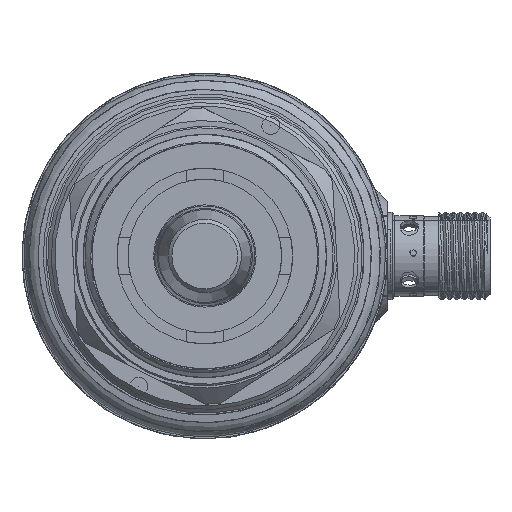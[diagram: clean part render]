
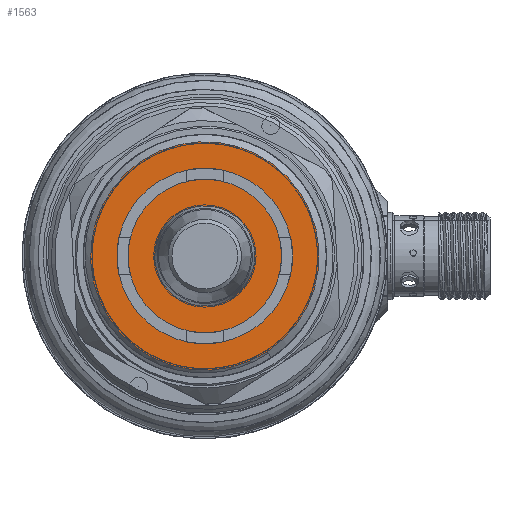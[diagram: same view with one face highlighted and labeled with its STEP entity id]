
A CAD part, front view. The second image highlights one B-rep face of the part: STEP entity #1563.
In plain terms, the highlighted planar face has unit normal (0, -1, 0) as drawn and (-1, 0, 0) by its records, which use the part's own axes.
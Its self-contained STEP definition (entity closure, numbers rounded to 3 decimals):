
#156 = EDGE_LOOP ( 'NONE', ( #3040 ) ) ;
#235 = EDGE_LOOP ( 'NONE', ( #4408 ) ) ;
#1563 = ADVANCED_FACE ( 'NONE', ( #6562, #12909 ), #5511, .F. ) ;
#2364 = AXIS2_PLACEMENT_3D ( 'NONE', #5418, #9752, #5703 ) ;
#2488 = CARTESIAN_POINT ( 'NONE',  ( 2.5, 0., -0.275 ) ) ;
#3040 = ORIENTED_EDGE ( 'NONE', *, *, #3867, .T. ) ;
#3096 = EDGE_CURVE ( 'NONE', #13075, #13075, #7472, .T. ) ;
#3348 = DIRECTION ( 'NONE',  ( 0., 0., -1. ) ) ;
#3867 = EDGE_CURVE ( 'NONE', #4628, #4628, #7953, .T. ) ;
#4408 = ORIENTED_EDGE ( 'NONE', *, *, #3096, .T. ) ;
#4628 = VERTEX_POINT ( 'NONE', #12104 ) ;
#5418 = CARTESIAN_POINT ( 'NONE',  ( 2.5, 0., -0.275 ) ) ;
#5511 = PLANE ( 'NONE',  #10358 ) ;
#5703 = DIRECTION ( 'NONE',  ( 0., 0., -1. ) ) ;
#6562 = FACE_OUTER_BOUND ( 'NONE', #156, .T. ) ;
#7472 = CIRCLE ( 'NONE', #2364, 6.85 ) ;
#7953 = CIRCLE ( 'NONE', #11507, 15.626 ) ;
#8613 = CARTESIAN_POINT ( 'NONE',  ( 2.5, 0., -7.125 ) ) ;
#8766 = DIRECTION ( 'NONE',  ( -1., 0., 0. ) ) ;
#9752 = DIRECTION ( 'NONE',  ( 1., 0., 0. ) ) ;
#9921 = CARTESIAN_POINT ( 'NONE',  ( 2.5, 0., -0.275 ) ) ;
#10358 = AXIS2_PLACEMENT_3D ( 'NONE', #9921, #13191, #3348 ) ;
#11507 = AXIS2_PLACEMENT_3D ( 'NONE', #2488, #8766, #13166 ) ;
#12104 = CARTESIAN_POINT ( 'NONE',  ( 2.5, 0., -15.901 ) ) ;
#12909 = FACE_BOUND ( 'NONE', #235, .T. ) ;
#13075 = VERTEX_POINT ( 'NONE', #8613 ) ;
#13166 = DIRECTION ( 'NONE',  ( 0., 0., -1. ) ) ;
#13191 = DIRECTION ( 'NONE',  ( 1., 0., 0. ) ) ;
